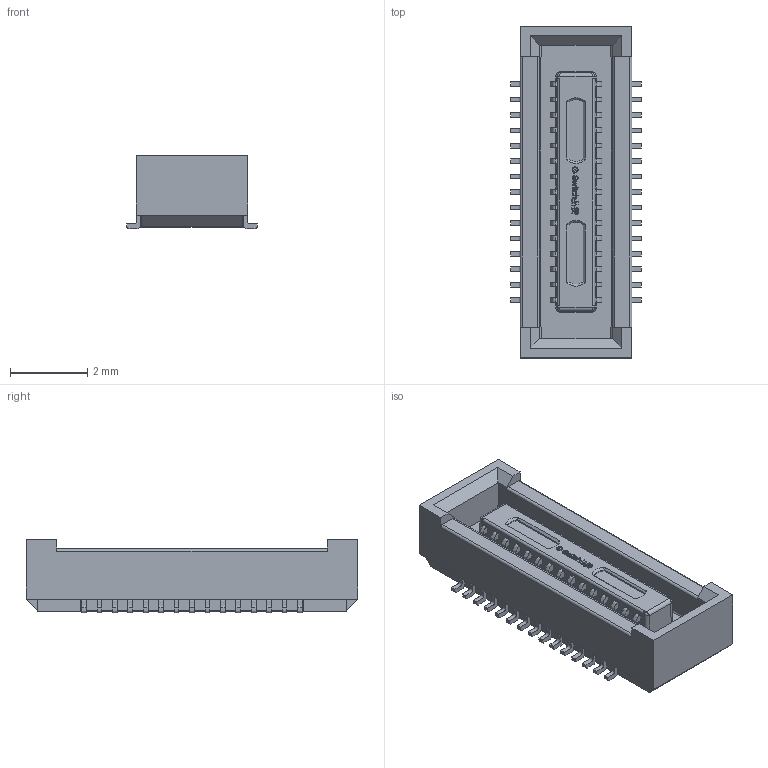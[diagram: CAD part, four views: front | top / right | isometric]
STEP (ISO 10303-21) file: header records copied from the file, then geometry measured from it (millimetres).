
FILE_DESCRIPTION (( 'STEP AP203' ), '1' );
FILE_NAME ('GT-B0403FSV19-XXXXX01.STEP', '2024-01-08T01:38:30', ( 'Microsoft' ), ( 'Microsoft' ), 'SwSTEP 2.0', 'SolidWorks 2023', '' );
FILE_SCHEMA (( 'CONFIG_CONTROL_DESIGN' ));
Length unit declared in the file: millimetre
Products named in the file (1): GT-B0403FSV19-XXXXX01
Bounding box: 3.39 x 8.6 x 1.9 mm (x, y, z)
Volume: 33 mm3; surface area: 125 mm2
Topology: 1 solids, 1 shells, 671 faces, 1846 edges, 1230 vertices
Faces by surface type: plane 387, bspline 232, cylinder 40, cone 12
Entity records: 31325 total; most frequent: CARTESIAN_POINT 16258, ORIENTED_EDGE 3692, DIRECTION 2282, EDGE_CURVE 1846, LINE 1238, VECTOR 1238, VERTEX_POINT 1230, EDGE_LOOP 724
